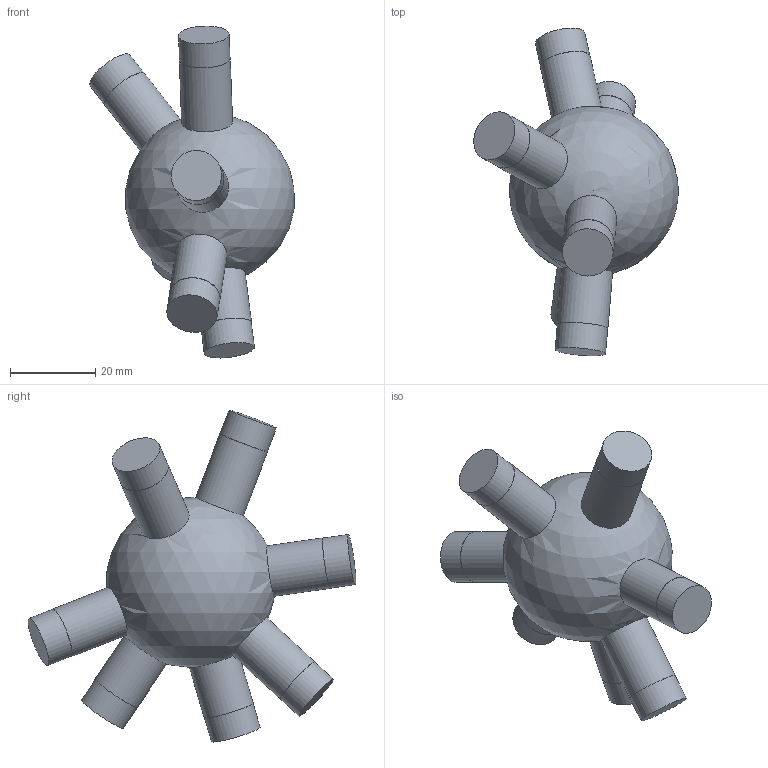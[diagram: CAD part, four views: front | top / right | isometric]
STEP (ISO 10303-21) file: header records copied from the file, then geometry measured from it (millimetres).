
FILE_DESCRIPTION(('Open CASCADE Model'),'2;1');
FILE_NAME('Open CASCADE Shape Model','2026-10-21T12:47:57',('Author'),( 'Open CASCADE'),'Open CASCADE STEP processor 7.9','Open CASCADE 7.9' ,'Unknown');
FILE_SCHEMA(('AUTOMOTIVE_DESIGN { 1 0 10303 214 1 1 1 1 }'));
Length unit declared in the file: millimetre
Products named in the file (1): Open CASCADE STEP translator 7.9 62
Bounding box: 48.12 x 77.13 x 78.12 mm (x, y, z)
Volume: 49000.4 mm3; surface area: 10304.1 mm2
Topology: 1 solids, 1 shells, 29 faces, 51 edges, 35 vertices
Faces by surface type: cylinder 14, plane 14, sphere 1
Full cylindrical faces by diameter (mm): 11.9 x7, 12 x7
Entity records: 2253 total; most frequent: CARTESIAN_POINT 1118, DIRECTION 231, ORIENTED_EDGE 100, PCURVE 100, DEFINITIONAL_REPRESENTATION 100, LINE 78, VECTOR 78, AXIS2_PLACEMENT_3D 66
